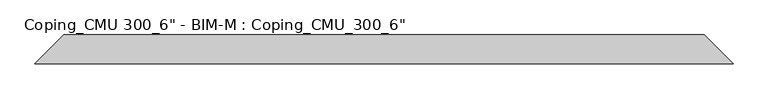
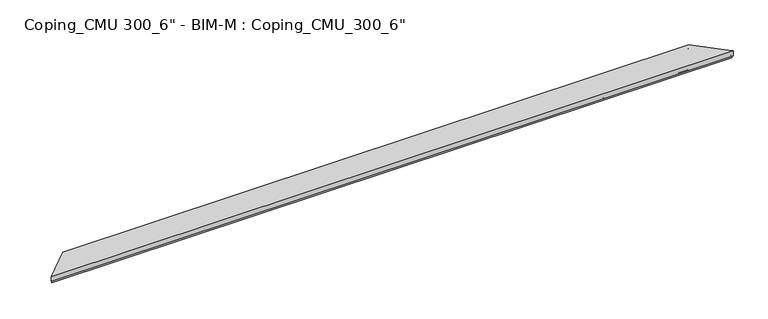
"""IFC4 building model written with IfcOpenShell, lengths in millimetres: proxy geometry."""

from ifc_helpers import new_model, si_unit, frame, origin, place, context, project, spatial, polyline, ellipse_curve, source, transform, mapped, element, save
from ifc_brep_helpers import plane_surface, revolved_surface, advanced_brep


def proxy_d2c89b67(model_context):
    return source(origin(), model_context, "Body", "AdvancedBrep", [
        advanced_brep(
        [(13252.45, 0.0, 93.2300644), (13252.45, 0.0, 0.0), (13252.45, 0.0, -50.8), (12744.45, 508.0, -50.8), (12744.45, 508.0, 0.0), (12741.275, 511.175, 0.0), (12728.575, 523.875, 0.0), (12725.4, 527.05, 0.0), (12725.4, 527.05, 78.58125), (13271.5, -19.05, 93.7595396), (13271.5, -19.05, 0.0), (13268.325, -15.875, 0.0), (13255.625, -3.175, 0.0), (0.0, 0.0, 93.2300644), (0.0, 0.0, 0.0), (-3.175, -3.175, 0.0), (-15.875, -15.875, 0.0), (-19.05, -19.05, 0.0), (-19.05, -19.05, 93.7595396), (527.05, 527.05, 78.58125), (527.05, 527.05, 0.0), (523.875, 523.875, 0.0), (511.175, 511.175, 0.0), (508.0, 508.0, 0.0), (508.0, 508.0, -50.8), (0.0, 0.0, -50.8)],
        [
            (0, 1),
            (1, 2),
            (2, 3),
            (3, 4),
            (4, 5),
            (5, 6, ellipse_curve(frame((12734.925, 517.525, 0.0), z_axis=(-0.707106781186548, -0.707106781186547, 0.0), x_axis=(-0.7071067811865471, 0.707106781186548, 0.0)), 8.9802561, 6.35)),
            (6, 7),
            (7, 8),
            (8, 0),
            (0, 9),
            (9, 10),
            (10, 11),
            (11, 12, ellipse_curve(frame((13261.975, -9.525, 0.0), z_axis=(-0.7071067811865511, -0.707106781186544, 0.0), x_axis=(-0.7071067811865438, 0.7071067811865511, 0.0)), 8.9802561, 6.35)),
            (12, 1),
            (13, 14),
            (14, 15),
            (15, 16, ellipse_curve(frame((-9.525, -9.525, 0.0), z_axis=(0.707106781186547, -0.707106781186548, 0.0), x_axis=(-0.7071067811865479, -0.707106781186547, 0.0)), 8.9802561, 6.35)),
            (16, 17),
            (17, 18),
            (18, 13),
            (13, 19),
            (19, 20),
            (20, 21),
            (21, 22, ellipse_curve(frame((517.525, 517.525, 0.0), z_axis=(0.7071067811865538, -0.7071067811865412, 0.0), x_axis=(-0.7071067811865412, -0.7071067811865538, 0.0)), 8.9802561, 6.35)),
            (22, 23),
            (23, 24),
            (24, 25),
            (25, 14),
            (8, 19),
            (18, 9),
            (17, 10),
            (16, 11),
            (15, 12),
            (14, 1),
            (5, 22),
            (21, 6),
            (20, 7),
            (25, 2),
            (24, 3),
            (23, 4),
        ],
        [
            plane_surface(frame((12623.8320715, 628.6179285, 304.8), z_axis=(0.707106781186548, 0.707106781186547, 0.0), x_axis=(0.0, 0.0, -1.0))),
            plane_surface(frame((13252.45, 0.0, 304.8), z_axis=(0.7071067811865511, 0.707106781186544, 0.0), x_axis=(0.0, 0.0, -1.0))),
            plane_surface(frame((-628.6179285, -628.6179285, 304.8), z_axis=(-0.707106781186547, 0.707106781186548, 0.0), x_axis=(0.0, 0.0, -1.0))),
            plane_surface(frame((0.0, 0.0, 304.8), z_axis=(-0.7071067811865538, 0.7071067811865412, 0.0), x_axis=(0.0, 0.0, -1.0))),
            plane_surface(frame((13709.65, 527.05, 78.58125), z_axis=(0.0, 0.027783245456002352, 0.9996139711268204), x_axis=(-1.0, 0.0, 0.0))),
            plane_surface(frame((13709.65, -19.05, 93.7595396), z_axis=(0.0, -1.0, 0.0), x_axis=(-1.0, 0.0, 0.0))),
            plane_surface(frame((13709.65, -19.05, 0.0), z_axis=(0.0, 0.0, -1.0), x_axis=(-1.0, 0.0, 0.0))),
            revolved_surface(polyline([(-15.875, -15.875, 0.0), (13268.325, -15.875, 0.0)]), (13709.65, -9.525, 0.0), (-1.0, 0.0, 0.0)),
            plane_surface(frame((13709.65, -3.175, 0.0), z_axis=(0.0, 0.0, -1.0), x_axis=(-1.0, 0.0, 0.0))),
            revolved_surface(polyline([(511.1749999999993, 511.17499999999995, 0.0), (12741.275, 511.17499999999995, 0.0)]), (13709.65, 517.525, 0.0), (-1.0, 0.0, 0.0)),
            plane_surface(frame((13709.65, 523.875, 0.0), z_axis=(0.0, 0.0, -1.0), x_axis=(-1.0, 0.0, 0.0))),
            plane_surface(frame((13709.65, 527.05, 0.0), z_axis=(0.0, 1.0, 0.0), x_axis=(-1.0, 0.0, 0.0))),
            plane_surface(frame((13709.65, 0.0, 0.0), z_axis=(0.0, -1.0, 0.0), x_axis=(-1.0, 0.0, 0.0))),
            plane_surface(frame((13709.65, 0.0, -50.8), z_axis=(0.0, 0.0, -1.0), x_axis=(-1.0, 0.0, 0.0))),
            plane_surface(frame((13709.65, 508.0, -50.8), z_axis=(0.0, 1.0, 0.0), x_axis=(-1.0, 0.0, 0.0))),
            plane_surface(frame((13709.65, 508.0, 0.0), z_axis=(0.0, 0.0, -1.0), x_axis=(-1.0, 0.0, 0.0))),
        ],
        [
            (0, [[1, 2, 3, 4, 5, 6, 7, 8, 9]]),
            (1, [[-1, 10, 11, 12, 13, 14]]),
            (2, [[15, 16, 17, 18, 19, 20]]),
            (3, [[-15, 21, 22, 23, 24, 25, 26, 27, 28]]),
            (4, [[-9, 29, -21, -20, 30, -10]]),
            (5, [[-11, -30, -19, 31]]),
            (6, [[-12, -31, -18, 32]]),
            (7, [[-13, -32, -17, 33]]),
            (8, [[-14, -33, -16, 34]]),
            (9, [[-6, 35, -24, 36]]),
            (10, [[-7, -36, -23, 37]]),
            (11, [[-8, -37, -22, -29]]),
            (12, [[-2, -34, -28, 38]]),
            (13, [[-3, -38, -27, 39]]),
            (14, [[-4, -39, -26, 40]]),
            (15, [[-5, -40, -25, -35]]),
        ],
    ),
    ])


if __name__ == "__main__":
    model = new_model("IFC4")
    model_context = context("Model", 3, world=origin())
    ifc_project = project(units=[si_unit("LENGTHUNIT", "METRE", prefix="MILLI")], contexts=[model_context])
    site = spatial("IfcSite", under=ifc_project)
    building = spatial("IfcBuilding", under=site)
    placement = place(None, origin())
    proxy_shape = proxy_d2c89b67(model_context)
    element("IfcBuildingElementProxy", 1, Name="Coping_CMU 300_6\" - BIM-M : Coping_CMU_300_6\"", ObjectType="Coping_CMU 300_6\" - BIM-M : Coping_CMU_300_6\"", at=placement, inside=building, context=model_context, shape_type="MappedRepresentation", body=[
        mapped(proxy_shape, transform((0.0, 0.0, 0.0), x_axis=(1.0, 0.0, 0.0), y_axis=(0.0, 1.0, 0.0), z_axis=(0.0, 0.0, 1.0))),
    ])
    save(model, "model.ifc")
